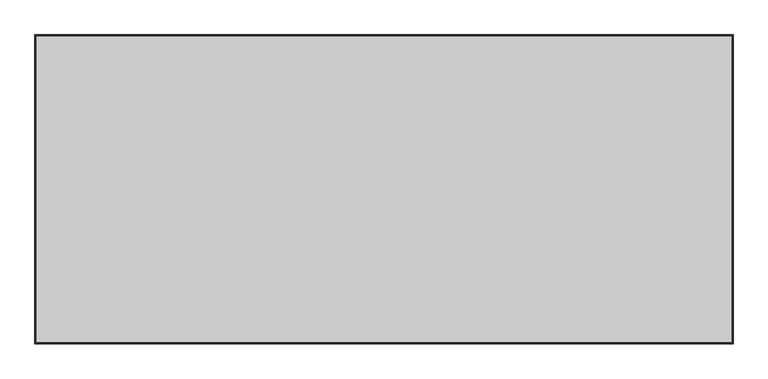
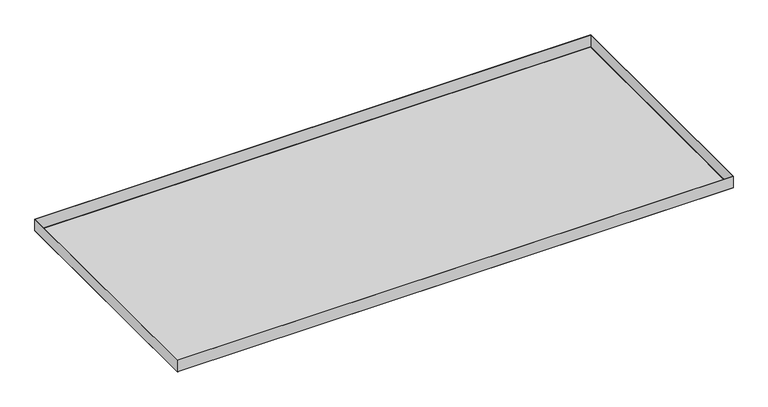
"""IFC4 building model written with IfcOpenShell, lengths in millimetres: proxy geometry, durlum_S7_panel : durlum_S7_panel_wall_width_cut."""

from ifc_helpers import new_model, si_unit, frame, origin, origin_with_axes, place, context, project, spatial, polyline, outline, extrude, source, transform, mapped, element, save


def generic_models_1702ebeb(model_context):
    return source(origin(), model_context, "Body", "SweptSolid", [
        extrude(outline(polyline([(898.0, 397.75), (898.0, -397.75), (-898.0, -397.75), (-898.0, 397.75), (898.0, 397.75)]), holes=[polyline([(897.4, 397.15), (-897.4, 397.15), (-897.4, -397.15), (897.4, -397.15), (897.4, 397.15)])]), frame((0.0, 0.0, 0.6), z_axis=(0.0, 0.0, 1.0), x_axis=(1.0, 0.0, 0.0)), (0.0, 0.0, 1.0), 39.4),
        extrude(outline(polyline([(894.0, 393.75), (894.0, -393.75), (-894.0, -393.75), (-894.0, 393.75), (894.0, 393.75)])), frame((0.0, 0.0, 0.6), z_axis=(0.0, 0.0, 1.0), x_axis=(1.0, 0.0, 0.0)), (0.0, 0.0, 1.0), 0.6),
        extrude(outline(polyline([(898.0, 397.75), (898.0, -397.75), (-898.0, -397.75), (-898.0, 397.75), (898.0, 397.75)]), holes=[polyline([(894.0, 393.75), (-894.0, 393.75), (-894.0, -393.75), (894.0, -393.75), (894.0, 393.75)])]), origin_with_axes(), (0.0, 0.0, 1.0), 0.6),
        extrude(outline(polyline([(894.0, 393.75), (894.0, -393.75), (-894.0, -393.75), (-894.0, 393.75), (894.0, 393.75)])), origin_with_axes(), (0.0, 0.0, 1.0), 0.6),
    ])


if __name__ == "__main__":
    model = new_model("IFC4")
    model_context = context("Model", 3, world=origin())
    ifc_project = project(units=[si_unit("LENGTHUNIT", "METRE", prefix="MILLI")], contexts=[model_context])
    site = spatial("IfcSite", under=ifc_project)
    building = spatial("IfcBuilding", under=site)
    placement = place(None, origin())
    generic_models_shape = generic_models_1702ebeb(model_context)
    element("IfcBuildingElementProxy", 1, Name="durlum_S7_panel : durlum_S7_panel_wall_width_cut", ObjectType="durlum_S7_panel : durlum_S7_panel_wall_width_cut", at=placement, inside=building, context=model_context, shape_type="MappedRepresentation", body=[
        mapped(generic_models_shape, transform((0.0, 0.0, 0.0), x_axis=(1.0, 0.0, 0.0), y_axis=(0.0, 1.0, 0.0), z_axis=(0.0, 0.0, 1.0))),
    ])
    save(model, "model.ifc")
